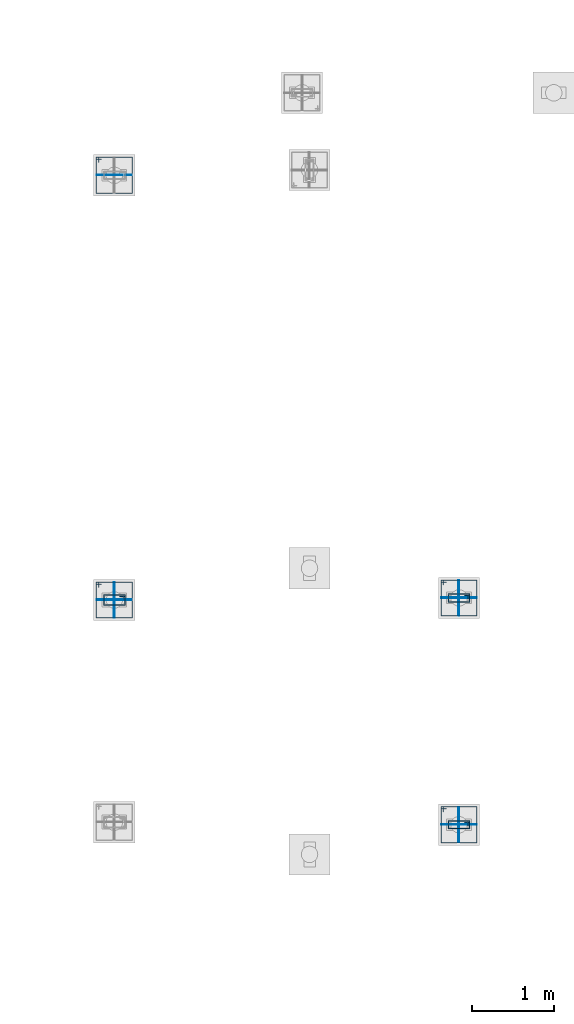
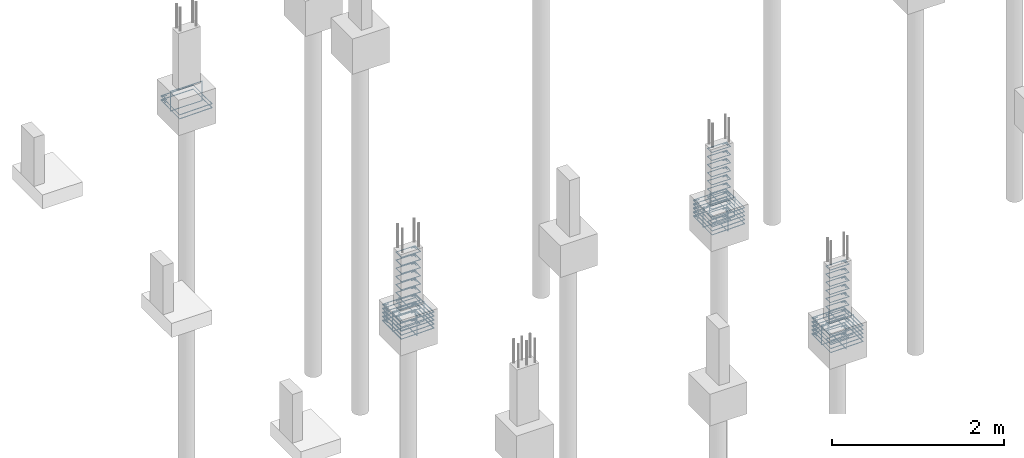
# One storey, part 102 of 119: 54 reinforcing bars.
"""IFC4 building model written with IfcOpenShell, lengths in centimetres."""

from ifc_helpers import new_model, entity, si_unit, derived_unit, frame, origin_with_axes, place, context, project, spatial, source, transform, mapped, element, save


model = new_model("IFC4")

# Units and contexts
model_context = context("Model", 3, precision=1e-05, world=origin_with_axes(), identifier="Body")
ifc_project = project(units=[si_unit("LENGTHUNIT", "METRE", prefix="CENTI"), si_unit("VOLUMEUNIT", "CUBIC_METRE"), si_unit("AREAUNIT", "SQUARE_METRE"), si_unit("POWERUNIT", "WATT"), si_unit("LUMINOUSFLUXUNIT", "LUMEN"), si_unit("ELECTRICCURRENTUNIT", "AMPERE"), si_unit("PRESSUREUNIT", "PASCAL", prefix="KILO"), si_unit("MASSUNIT", "GRAM", prefix="KILO"), si_unit("PLANEANGLEUNIT", "RADIAN"), derived_unit("VOLUMETRICFLOWRATEUNIT", [(si_unit("LENGTHUNIT", "METRE"), 3), (si_unit("TIMEUNIT", "SECOND"), -1)])], contexts=[model_context])

# Site, building, storey
site_placement = place(None, frame((-4000.0, 0.0, 0.0), z_axis=(0.0, 0.0, 1.0), x_axis=(1.0, 0.0, 0.0)))
site = spatial("IfcSite", under=ifc_project, at=site_placement, Name="PADRÃO")
building_placement = place(site_placement, frame((0.0, 0.0, -14.0)))
building = spatial("IfcBuilding", under=site, at=building_placement, Name="CRECHE PRÉ-ESCOLA TIPO 2")
storey_placement = place(building_placement, origin_with_axes())
storey = spatial("IfcBuildingStorey", under=building, at=storey_placement, Name="FUNDAÇÃO", CompositionType="ELEMENT", Elevation=-14.0)

# Reinforcing bars
shared_shape_1 = source(origin_with_axes(), model_context, "Body", "AdvancedSweptSolid", [
    entity("IfcSweptDiskSolid", entity("IfcCompositeCurve", [entity("IfcCompositeCurveSegment", "CONTINUOUS", True, entity("IfcPolyline", [entity("IfcCartesianPoint", [4.25, 21.75, 0.0]), entity("IfcCartesianPoint", [4.25, 27.75, 0.0])])), entity("IfcCompositeCurveSegment", "CONTINUOUS", True, entity("IfcPolyline", [entity("IfcCartesianPoint", [4.25, 27.75, 0.0]), entity("IfcCartesianPoint", [2.25, 27.75, 0.0])])), entity("IfcCompositeCurveSegment", "CONTINUOUS", True, entity("IfcPolyline", [entity("IfcCartesianPoint", [2.25, 27.75, 0.0]), entity("IfcCartesianPoint", [2.25, 2.25, 0.0])])), entity("IfcCompositeCurveSegment", "CONTINUOUS", True, entity("IfcPolyline", [entity("IfcCartesianPoint", [2.25, 2.25, 0.0]), entity("IfcCartesianPoint", [14.75, 2.25, 0.0])])), entity("IfcCompositeCurveSegment", "CONTINUOUS", True, entity("IfcPolyline", [entity("IfcCartesianPoint", [14.75, 2.25, 0.0]), entity("IfcCartesianPoint", [14.75, 27.75, -0.5])])), entity("IfcCompositeCurveSegment", "CONTINUOUS", True, entity("IfcPolyline", [entity("IfcCartesianPoint", [14.75, 27.75, -0.5]), entity("IfcCartesianPoint", [2.25, 27.75, -0.5])])), entity("IfcCompositeCurveSegment", "CONTINUOUS", True, entity("IfcPolyline", [entity("IfcCartesianPoint", [2.25, 27.75, -0.5]), entity("IfcCartesianPoint", [2.25, 25.75, -0.5])])), entity("IfcCompositeCurveSegment", "CONTINUOUS", True, entity("IfcPolyline", [entity("IfcCartesianPoint", [2.25, 25.75, -0.5]), entity("IfcCartesianPoint", [8.25, 25.75, -0.5])]))], False), 0.25),
])
for number, where, z_axis, x_axis, name in (
    (1, (252.01, 3478.5, -63.25), (0.0, 0.0, 1.0), (0.0, -1.0, 0.0), "P36 - Estribo"),
    (2, (252.01, 3478.5, -40.25), (0.0, 0.0, 1.0), (0.0, -1.0, 0.0), "P36 - Estribo"),
    (3, (252.01, 3478.5, -17.25), (0.0, 0.0, 1.0), (0.0, -1.0, 0.0), "P36 - Estribo"),
    (4, (252.01, 3478.5, -28.75), (0.0, 0.0, 1.0), (0.0, -1.0, 0.0), "P36 - Estribo"),
    (5, (252.01, 3478.5, -97.75), (0.0, 0.0, 1.0), (0.0, -1.0, 0.0), "P36 - Estribo"),
    (6, (252.01, 3478.5, -86.25), (0.0, 0.0, 1.0), (0.0, -1.0, 0.0), "P36 - Estribo"),
    (7, (252.01, 3478.5, -5.75), (0.0, 0.0, 1.0), (0.0, -1.0, 0.0), "P36 - Estribo"),
    (8, (252.01, 3478.5, -74.75), (0.0, 0.0, 1.0), (0.0, -1.0, 0.0), "P36 - Estribo"),
    (9, (252.01, 3478.5, -51.75), (0.0, 0.0, 1.0), (0.0, -1.0, 0.0), "P36 - Estribo"),
    (10, (252.01, 3478.5, -109.25), (0.0, 0.0, 1.0), (0.0, -1.0, 0.0), "P36 - Estribo"),
):
    element("IfcReinforcingBar", number, at=place(storey_placement, frame(where, z_axis=z_axis, x_axis=x_axis)), inside=storey, Name=name, BarLength=0.0, CrossSectionArea=1.9634954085e-05, NominalDiameter=0.5, PredefinedType="MAIN", context=model_context, shape_type="MappedRepresentation", body=[
        mapped(shared_shape_1, transform((0.0, 0.0, 0.0), scale=1.0)),
    ])
shared_shape_2 = source(origin_with_axes(), model_context, "Body", "AdvancedSweptSolid", [
    entity("IfcSweptDiskSolid", entity("IfcCompositeCurve", [entity("IfcCompositeCurveSegment", "CONTINUOUS", True, entity("IfcPolyline", [entity("IfcCartesianPoint", [247.845, 3485.425, 0.0]), entity("IfcCartesianPoint", [247.845, 3491.685, 0.0])])), entity("IfcCompositeCurveSegment", "CONTINUOUS", True, entity("IfcPolyline", [entity("IfcCartesianPoint", [247.845, 3491.685, 0.0]), entity("IfcCartesianPoint", [245.325, 3491.685, 0.0])])), entity("IfcCompositeCurveSegment", "CONTINUOUS", True, entity("IfcPolyline", [entity("IfcCartesianPoint", [245.325, 3491.685, 0.0]), entity("IfcCartesianPoint", [245.325, 3448.315, 0.0])])), entity("IfcCompositeCurveSegment", "CONTINUOUS", True, entity("IfcPolyline", [entity("IfcCartesianPoint", [245.325, 3448.315, 0.0]), entity("IfcCartesianPoint", [288.695, 3448.315, 0.63])])), entity("IfcCompositeCurveSegment", "CONTINUOUS", True, entity("IfcPolyline", [entity("IfcCartesianPoint", [288.695, 3448.315, 0.63]), entity("IfcCartesianPoint", [288.695, 3491.685, 0.63])])), entity("IfcCompositeCurveSegment", "CONTINUOUS", True, entity("IfcPolyline", [entity("IfcCartesianPoint", [288.695, 3491.685, 0.63]), entity("IfcCartesianPoint", [245.325, 3491.685, 0.63])])), entity("IfcCompositeCurveSegment", "CONTINUOUS", True, entity("IfcPolyline", [entity("IfcCartesianPoint", [245.325, 3491.685, 0.63]), entity("IfcCartesianPoint", [245.325, 3489.165, 0.63])])), entity("IfcCompositeCurveSegment", "CONTINUOUS", True, entity("IfcPolyline", [entity("IfcCartesianPoint", [245.325, 3489.165, 0.63]), entity("IfcCartesianPoint", [251.585, 3489.165, 0.63])]))], False), 0.315),
])
for number, where, z_axis, x_axis, name in (
    (11, (0.0, 0.0, -109.175), (0.0, 0.0, 1.0), (1.0, 0.0, 0.0), "P36 - Blocos (estribos)"),
    (12, (0.0, 0.0, -103.525), (0.0, 0.0, 1.0), (1.0, 0.0, 0.0), "P36 - Blocos (estribos)"),
    (13, (0.0, 0.0, -97.875), (0.0, 0.0, 1.0), (1.0, 0.0, 0.0), "P36 - Blocos (estribos)"),
    (14, (0.0, 0.0, -92.225), (0.0, 0.0, 1.0), (1.0, 0.0, 0.0), "P36 - Blocos (estribos)"),
    (15, (0.0, 0.0, -86.575), (0.0, 0.0, 1.0), (1.0, 0.0, 0.0), "P36 - Blocos (estribos)"),
):
    element("IfcReinforcingBar", number, at=place(storey_placement, frame(where, z_axis=z_axis, x_axis=x_axis)), inside=storey, Name=name, BarLength=0.0, CrossSectionArea=3.1172453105e-05, NominalDiameter=0.63, PredefinedType="MAIN", context=model_context, shape_type="MappedRepresentation", body=[
        mapped(shared_shape_2, transform((0.0, 0.0, 0.0), scale=1.0)),
    ])
shared_shape_3 = source(origin_with_axes(), model_context, "Body", "AdvancedSweptSolid", [
    entity("IfcSweptDiskSolid", entity("IfcCompositeCurve", [entity("IfcCompositeCurveSegment", "CONTINUOUS", True, entity("IfcPolyline", [entity("IfcCartesianPoint", [-15.12, -12.0, 0.0]), entity("IfcCartesianPoint", [-21.12, -12.0, 0.0])])), entity("IfcCompositeCurveSegment", "CONTINUOUS", True, entity("IfcPolyline", [entity("IfcCartesianPoint", [-21.12, -12.0, 0.0]), entity("IfcCartesianPoint", [-21.12, -14.0, 0.0])])), entity("IfcCompositeCurveSegment", "CONTINUOUS", True, entity("IfcPolyline", [entity("IfcCartesianPoint", [-21.12, -14.0, 0.0]), entity("IfcCartesianPoint", [21.12, -14.0, 0.0])])), entity("IfcCompositeCurveSegment", "CONTINUOUS", True, entity("IfcPolyline", [entity("IfcCartesianPoint", [21.12, -14.0, 0.0]), entity("IfcCartesianPoint", [21.12, 14.0, 0.5])])), entity("IfcCompositeCurveSegment", "CONTINUOUS", True, entity("IfcPolyline", [entity("IfcCartesianPoint", [21.12, 14.0, 0.5]), entity("IfcCartesianPoint", [-21.12, 14.0, 0.5])])), entity("IfcCompositeCurveSegment", "CONTINUOUS", True, entity("IfcPolyline", [entity("IfcCartesianPoint", [-21.12, 14.0, 0.5]), entity("IfcCartesianPoint", [-21.12, -14.0, 0.5])])), entity("IfcCompositeCurveSegment", "CONTINUOUS", True, entity("IfcPolyline", [entity("IfcCartesianPoint", [-21.12, -14.0, 0.5]), entity("IfcCartesianPoint", [-19.12, -14.0, 0.5])])), entity("IfcCompositeCurveSegment", "CONTINUOUS", True, entity("IfcPolyline", [entity("IfcCartesianPoint", [-19.12, -14.0, 0.5]), entity("IfcCartesianPoint", [-19.12, -8.0, 0.5])]))], False), 0.25),
])
reinforcing_bar_1_placement = place(storey_placement, frame((267.01, 3470.0, -97.75), z_axis=(0.0, 1.0, 0.0), x_axis=(1.0, 0.0, 0.0)))
element("IfcReinforcingBar", 16, at=reinforcing_bar_1_placement, inside=storey, Name="P36 - Blocos (estribos)", BarLength=0.0, CrossSectionArea=1.9634954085e-05, NominalDiameter=0.5, PredefinedType="MAIN", context=model_context, shape_type="MappedRepresentation", body=[
    mapped(shared_shape_3, transform((0.0, 0.0, 0.0), scale=1.0)),
])
shared_shape_4 = source(origin_with_axes(), model_context, "Body", "AdvancedSweptSolid", [
    entity("IfcSweptDiskSolid", entity("IfcCompositeCurve", [entity("IfcCompositeCurveSegment", "CONTINUOUS", True, entity("IfcPolyline", [entity("IfcCartesianPoint", [-15.12, -12.0, 0.0]), entity("IfcCartesianPoint", [-21.12, -12.0, 0.0])])), entity("IfcCompositeCurveSegment", "CONTINUOUS", True, entity("IfcPolyline", [entity("IfcCartesianPoint", [-21.12, -12.0, 0.0]), entity("IfcCartesianPoint", [-21.12, -14.0, 0.0])])), entity("IfcCompositeCurveSegment", "CONTINUOUS", True, entity("IfcPolyline", [entity("IfcCartesianPoint", [-21.12, -14.0, 0.0]), entity("IfcCartesianPoint", [21.12, -14.0, 0.0])])), entity("IfcCompositeCurveSegment", "CONTINUOUS", True, entity("IfcPolyline", [entity("IfcCartesianPoint", [21.12, -14.0, 0.0]), entity("IfcCartesianPoint", [21.12, 14.0, 0.5])])), entity("IfcCompositeCurveSegment", "CONTINUOUS", True, entity("IfcPolyline", [entity("IfcCartesianPoint", [21.12, 14.0, 0.5]), entity("IfcCartesianPoint", [-21.12, 14.0, 0.5])])), entity("IfcCompositeCurveSegment", "CONTINUOUS", True, entity("IfcPolyline", [entity("IfcCartesianPoint", [-21.12, 14.0, 0.5]), entity("IfcCartesianPoint", [-21.12, -14.0, 0.5])])), entity("IfcCompositeCurveSegment", "CONTINUOUS", True, entity("IfcPolyline", [entity("IfcCartesianPoint", [-21.12, -14.0, 0.5]), entity("IfcCartesianPoint", [-19.12, -14.0, 0.5])])), entity("IfcCompositeCurveSegment", "CONTINUOUS", True, entity("IfcPolyline", [entity("IfcCartesianPoint", [-19.12, -14.0, 0.5]), entity("IfcCartesianPoint", [-19.12, -8.0, 0.5])]))], False), 0.25),
])
reinforcing_bar_2_placement = place(storey_placement, frame((267.01, 3470.0, -97.75), z_axis=(-1.0, 0.0, 0.0), x_axis=(0.0, 1.0, 0.0)))
element("IfcReinforcingBar", 17, at=reinforcing_bar_2_placement, inside=storey, Name="P36 - Blocos (estribos)", BarLength=0.0, CrossSectionArea=1.9634954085e-05, NominalDiameter=0.5, PredefinedType="MAIN", context=model_context, shape_type="MappedRepresentation", body=[
    mapped(shared_shape_4, transform((0.0, 0.0, 0.0), scale=1.0)),
])
shared_shape_5 = source(origin_with_axes(), model_context, "Body", "AdvancedSweptSolid", [
    entity("IfcSweptDiskSolid", entity("IfcCompositeCurve", [entity("IfcCompositeCurveSegment", "CONTINUOUS", True, entity("IfcPolyline", [entity("IfcCartesianPoint", [247.835, 4000.425, 0.0]), entity("IfcCartesianPoint", [247.835, 4006.685, 0.0])])), entity("IfcCompositeCurveSegment", "CONTINUOUS", True, entity("IfcPolyline", [entity("IfcCartesianPoint", [247.835, 4006.685, 0.0]), entity("IfcCartesianPoint", [245.315, 4006.685, 0.0])])), entity("IfcCompositeCurveSegment", "CONTINUOUS", True, entity("IfcPolyline", [entity("IfcCartesianPoint", [245.315, 4006.685, 0.0]), entity("IfcCartesianPoint", [245.315, 3963.315, 0.0])])), entity("IfcCompositeCurveSegment", "CONTINUOUS", True, entity("IfcPolyline", [entity("IfcCartesianPoint", [245.315, 3963.315, 0.0]), entity("IfcCartesianPoint", [288.685, 3963.315, 0.63])])), entity("IfcCompositeCurveSegment", "CONTINUOUS", True, entity("IfcPolyline", [entity("IfcCartesianPoint", [288.685, 3963.315, 0.63]), entity("IfcCartesianPoint", [288.685, 4006.685, 0.63])])), entity("IfcCompositeCurveSegment", "CONTINUOUS", True, entity("IfcPolyline", [entity("IfcCartesianPoint", [288.685, 4006.685, 0.63]), entity("IfcCartesianPoint", [245.315, 4006.685, 0.63])])), entity("IfcCompositeCurveSegment", "CONTINUOUS", True, entity("IfcPolyline", [entity("IfcCartesianPoint", [245.315, 4006.685, 0.63]), entity("IfcCartesianPoint", [245.315, 4004.165, 0.63])])), entity("IfcCompositeCurveSegment", "CONTINUOUS", True, entity("IfcPolyline", [entity("IfcCartesianPoint", [245.315, 4004.165, 0.63]), entity("IfcCartesianPoint", [251.575, 4004.165, 0.63])]))], False), 0.315),
])
for number, where, z_axis, x_axis, name in (
    (18, (0.0, 0.0, -103.525), (0.0, 0.0, 1.0), (1.0, 0.0, 0.0), "P23 - Blocos (estribos)"),
    (19, (0.0, 0.0, -109.175), (0.0, 0.0, 1.0), (1.0, 0.0, 0.0), "P23 - Blocos (estribos)"),
):
    element("IfcReinforcingBar", number, at=place(storey_placement, frame(where, z_axis=z_axis, x_axis=x_axis)), inside=storey, Name=name, BarLength=0.0, CrossSectionArea=3.1172453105e-05, NominalDiameter=0.63, PredefinedType="MAIN", context=model_context, shape_type="MappedRepresentation", body=[
        mapped(shared_shape_5, transform((0.0, 0.0, 0.0), scale=1.0)),
    ])
shared_shape_6 = source(origin_with_axes(), model_context, "Body", "AdvancedSweptSolid", [
    entity("IfcSweptDiskSolid", entity("IfcCompositeCurve", [entity("IfcCompositeCurveSegment", "CONTINUOUS", True, entity("IfcPolyline", [entity("IfcCartesianPoint", [-15.12, -12.0, 0.0]), entity("IfcCartesianPoint", [-21.12, -12.0, 0.0])])), entity("IfcCompositeCurveSegment", "CONTINUOUS", True, entity("IfcPolyline", [entity("IfcCartesianPoint", [-21.12, -12.0, 0.0]), entity("IfcCartesianPoint", [-21.12, -14.0, 0.0])])), entity("IfcCompositeCurveSegment", "CONTINUOUS", True, entity("IfcPolyline", [entity("IfcCartesianPoint", [-21.12, -14.0, 0.0]), entity("IfcCartesianPoint", [21.12, -14.0, 0.0])])), entity("IfcCompositeCurveSegment", "CONTINUOUS", True, entity("IfcPolyline", [entity("IfcCartesianPoint", [21.12, -14.0, 0.0]), entity("IfcCartesianPoint", [21.12, 14.0, 0.5])])), entity("IfcCompositeCurveSegment", "CONTINUOUS", True, entity("IfcPolyline", [entity("IfcCartesianPoint", [21.12, 14.0, 0.5]), entity("IfcCartesianPoint", [-21.12, 14.0, 0.5])])), entity("IfcCompositeCurveSegment", "CONTINUOUS", True, entity("IfcPolyline", [entity("IfcCartesianPoint", [-21.12, 14.0, 0.5]), entity("IfcCartesianPoint", [-21.12, -14.0, 0.5])])), entity("IfcCompositeCurveSegment", "CONTINUOUS", True, entity("IfcPolyline", [entity("IfcCartesianPoint", [-21.12, -14.0, 0.5]), entity("IfcCartesianPoint", [-19.12, -14.0, 0.5])])), entity("IfcCompositeCurveSegment", "CONTINUOUS", True, entity("IfcPolyline", [entity("IfcCartesianPoint", [-19.12, -14.0, 0.5]), entity("IfcCartesianPoint", [-19.12, -8.0, 0.5])]))], False), 0.25),
])
reinforcing_bar_3_placement = place(storey_placement, frame((267.0, 3985.0, -97.75), z_axis=(0.0, 1.0, 0.0), x_axis=(1.0, 0.0, 0.0)))
element("IfcReinforcingBar", 20, at=reinforcing_bar_3_placement, inside=storey, Name="P23 - Blocos (estribos)", BarLength=0.0, CrossSectionArea=1.9634954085e-05, NominalDiameter=0.5, PredefinedType="MAIN", context=model_context, shape_type="MappedRepresentation", body=[
    mapped(shared_shape_6, transform((0.0, 0.0, 0.0), scale=1.0)),
])
shared_shape_7 = source(origin_with_axes(), model_context, "Body", "AdvancedSweptSolid", [
    entity("IfcSweptDiskSolid", entity("IfcCompositeCurve", [entity("IfcCompositeCurveSegment", "CONTINUOUS", True, entity("IfcPolyline", [entity("IfcCartesianPoint", [4.25, 21.75, 0.0]), entity("IfcCartesianPoint", [4.25, 27.75, 0.0])])), entity("IfcCompositeCurveSegment", "CONTINUOUS", True, entity("IfcPolyline", [entity("IfcCartesianPoint", [4.25, 27.75, 0.0]), entity("IfcCartesianPoint", [2.25, 27.75, 0.0])])), entity("IfcCompositeCurveSegment", "CONTINUOUS", True, entity("IfcPolyline", [entity("IfcCartesianPoint", [2.25, 27.75, 0.0]), entity("IfcCartesianPoint", [2.25, 2.25, 0.0])])), entity("IfcCompositeCurveSegment", "CONTINUOUS", True, entity("IfcPolyline", [entity("IfcCartesianPoint", [2.25, 2.25, 0.0]), entity("IfcCartesianPoint", [11.75, 2.25, 0.0])])), entity("IfcCompositeCurveSegment", "CONTINUOUS", True, entity("IfcPolyline", [entity("IfcCartesianPoint", [11.75, 2.25, 0.0]), entity("IfcCartesianPoint", [11.75, 27.75, -0.5])])), entity("IfcCompositeCurveSegment", "CONTINUOUS", True, entity("IfcPolyline", [entity("IfcCartesianPoint", [11.75, 27.75, -0.5]), entity("IfcCartesianPoint", [2.25, 27.75, -0.5])])), entity("IfcCompositeCurveSegment", "CONTINUOUS", True, entity("IfcPolyline", [entity("IfcCartesianPoint", [2.25, 27.75, -0.5]), entity("IfcCartesianPoint", [2.25, 25.75, -0.5])])), entity("IfcCompositeCurveSegment", "CONTINUOUS", True, entity("IfcPolyline", [entity("IfcCartesianPoint", [2.25, 25.75, -0.5]), entity("IfcCartesianPoint", [8.25, 25.75, -0.5])]))], False), 0.25),
])
for number, where, z_axis, x_axis, name in (
    (21, (670.0, 3204.49, -51.75), (0.0, 0.0, 1.0), (0.0, -1.0, 0.0), "P49 - Estribo"),
    (22, (670.0, 3204.49, -28.75), (0.0, 0.0, 1.0), (0.0, -1.0, 0.0), "P49 - Estribo"),
    (23, (670.0, 3204.49, -109.25), (0.0, 0.0, 1.0), (0.0, -1.0, 0.0), "P49 - Estribo"),
    (24, (670.0, 3204.49, -97.75), (0.0, 0.0, 1.0), (0.0, -1.0, 0.0), "P49 - Estribo"),
    (25, (670.0, 3204.49, -86.25), (0.0, 0.0, 1.0), (0.0, -1.0, 0.0), "P49 - Estribo"),
    (26, (670.0, 3204.49, -74.75), (0.0, 0.0, 1.0), (0.0, -1.0, 0.0), "P49 - Estribo"),
    (27, (670.0, 3204.49, -63.25), (0.0, 0.0, 1.0), (0.0, -1.0, 0.0), "P49 - Estribo"),
    (28, (670.0, 3204.49, -40.25), (0.0, 0.0, 1.0), (0.0, -1.0, 0.0), "P49 - Estribo"),
    (29, (670.0, 3204.49, -5.75), (0.0, 0.0, 1.0), (0.0, -1.0, 0.0), "P49 - Estribo"),
    (30, (670.0, 3204.49, -17.25), (0.0, 0.0, 1.0), (0.0, -1.0, 0.0), "P49 - Estribo"),
):
    element("IfcReinforcingBar", number, at=place(storey_placement, frame(where, z_axis=z_axis, x_axis=x_axis)), inside=storey, Name=name, BarLength=0.0, CrossSectionArea=1.9634954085e-05, NominalDiameter=0.5, PredefinedType="MAIN", context=model_context, shape_type="MappedRepresentation", body=[
        mapped(shared_shape_7, transform((0.0, 0.0, 0.0), scale=1.0)),
    ])
shared_shape_8 = source(origin_with_axes(), model_context, "Body", "AdvancedSweptSolid", [
    entity("IfcSweptDiskSolid", entity("IfcCompositeCurve", [entity("IfcCompositeCurveSegment", "CONTINUOUS", True, entity("IfcPolyline", [entity("IfcCartesianPoint", [665.835, 3212.915, 0.0]), entity("IfcCartesianPoint", [665.835, 3219.175, 0.0])])), entity("IfcCompositeCurveSegment", "CONTINUOUS", True, entity("IfcPolyline", [entity("IfcCartesianPoint", [665.835, 3219.175, 0.0]), entity("IfcCartesianPoint", [663.315, 3219.175, 0.0])])), entity("IfcCompositeCurveSegment", "CONTINUOUS", True, entity("IfcPolyline", [entity("IfcCartesianPoint", [663.315, 3219.175, 0.0]), entity("IfcCartesianPoint", [663.315, 3175.805, 0.0])])), entity("IfcCompositeCurveSegment", "CONTINUOUS", True, entity("IfcPolyline", [entity("IfcCartesianPoint", [663.315, 3175.805, 0.0]), entity("IfcCartesianPoint", [706.685, 3175.805, 0.63])])), entity("IfcCompositeCurveSegment", "CONTINUOUS", True, entity("IfcPolyline", [entity("IfcCartesianPoint", [706.685, 3175.805, 0.63]), entity("IfcCartesianPoint", [706.685, 3219.175, 0.63])])), entity("IfcCompositeCurveSegment", "CONTINUOUS", True, entity("IfcPolyline", [entity("IfcCartesianPoint", [706.685, 3219.175, 0.63]), entity("IfcCartesianPoint", [663.315, 3219.175, 0.63])])), entity("IfcCompositeCurveSegment", "CONTINUOUS", True, entity("IfcPolyline", [entity("IfcCartesianPoint", [663.315, 3219.175, 0.63]), entity("IfcCartesianPoint", [663.315, 3216.655, 0.63])])), entity("IfcCompositeCurveSegment", "CONTINUOUS", True, entity("IfcPolyline", [entity("IfcCartesianPoint", [663.315, 3216.655, 0.63]), entity("IfcCartesianPoint", [669.575, 3216.655, 0.63])]))], False), 0.315),
])
for number, where, z_axis, x_axis, name in (
    (31, (0.0, 0.0, -97.875), (0.0, 0.0, 1.0), (1.0, 0.0, 0.0), "P49 - Blocos (estribos)"),
    (32, (0.0, 0.0, -92.225), (0.0, 0.0, 1.0), (1.0, 0.0, 0.0), "P49 - Blocos (estribos)"),
    (33, (0.0, 0.0, -86.575), (0.0, 0.0, 1.0), (1.0, 0.0, 0.0), "P49 - Blocos (estribos)"),
    (34, (0.0, 0.0, -109.175), (0.0, 0.0, 1.0), (1.0, 0.0, 0.0), "P49 - Blocos (estribos)"),
    (35, (0.0, 0.0, -103.525), (0.0, 0.0, 1.0), (1.0, 0.0, 0.0), "P49 - Blocos (estribos)"),
):
    element("IfcReinforcingBar", number, at=place(storey_placement, frame(where, z_axis=z_axis, x_axis=x_axis)), inside=storey, Name=name, BarLength=0.0, CrossSectionArea=3.1172453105e-05, NominalDiameter=0.63, PredefinedType="MAIN", context=model_context, shape_type="MappedRepresentation", body=[
        mapped(shared_shape_8, transform((0.0, 0.0, 0.0), scale=1.0)),
    ])
shared_shape_9 = source(origin_with_axes(), model_context, "Body", "AdvancedSweptSolid", [
    entity("IfcSweptDiskSolid", entity("IfcCompositeCurve", [entity("IfcCompositeCurveSegment", "CONTINUOUS", True, entity("IfcPolyline", [entity("IfcCartesianPoint", [-15.12, -12.0, 0.0]), entity("IfcCartesianPoint", [-21.12, -12.0, 0.0])])), entity("IfcCompositeCurveSegment", "CONTINUOUS", True, entity("IfcPolyline", [entity("IfcCartesianPoint", [-21.12, -12.0, 0.0]), entity("IfcCartesianPoint", [-21.12, -14.0, 0.0])])), entity("IfcCompositeCurveSegment", "CONTINUOUS", True, entity("IfcPolyline", [entity("IfcCartesianPoint", [-21.12, -14.0, 0.0]), entity("IfcCartesianPoint", [21.12, -14.0, 0.0])])), entity("IfcCompositeCurveSegment", "CONTINUOUS", True, entity("IfcPolyline", [entity("IfcCartesianPoint", [21.12, -14.0, 0.0]), entity("IfcCartesianPoint", [21.12, 14.0, 0.5])])), entity("IfcCompositeCurveSegment", "CONTINUOUS", True, entity("IfcPolyline", [entity("IfcCartesianPoint", [21.12, 14.0, 0.5]), entity("IfcCartesianPoint", [-21.12, 14.0, 0.5])])), entity("IfcCompositeCurveSegment", "CONTINUOUS", True, entity("IfcPolyline", [entity("IfcCartesianPoint", [-21.12, 14.0, 0.5]), entity("IfcCartesianPoint", [-21.12, -14.0, 0.5])])), entity("IfcCompositeCurveSegment", "CONTINUOUS", True, entity("IfcPolyline", [entity("IfcCartesianPoint", [-21.12, -14.0, 0.5]), entity("IfcCartesianPoint", [-19.12, -14.0, 0.5])])), entity("IfcCompositeCurveSegment", "CONTINUOUS", True, entity("IfcPolyline", [entity("IfcCartesianPoint", [-19.12, -14.0, 0.5]), entity("IfcCartesianPoint", [-19.12, -8.0, 0.5])]))], False), 0.25),
])
reinforcing_bar_4_placement = place(storey_placement, frame((685.0, 3197.49, -97.75), z_axis=(0.0, 1.0, 0.0), x_axis=(1.0, 0.0, 0.0)))
element("IfcReinforcingBar", 36, at=reinforcing_bar_4_placement, inside=storey, Name="P49 - Blocos (estribos)", BarLength=0.0, CrossSectionArea=1.9634954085e-05, NominalDiameter=0.5, PredefinedType="MAIN", context=model_context, shape_type="MappedRepresentation", body=[
    mapped(shared_shape_9, transform((0.0, 0.0, 0.0), scale=1.0)),
])
shared_shape_10 = source(origin_with_axes(), model_context, "Body", "AdvancedSweptSolid", [
    entity("IfcSweptDiskSolid", entity("IfcCompositeCurve", [entity("IfcCompositeCurveSegment", "CONTINUOUS", True, entity("IfcPolyline", [entity("IfcCartesianPoint", [-15.12, -12.0, 0.0]), entity("IfcCartesianPoint", [-21.12, -12.0, 0.0])])), entity("IfcCompositeCurveSegment", "CONTINUOUS", True, entity("IfcPolyline", [entity("IfcCartesianPoint", [-21.12, -12.0, 0.0]), entity("IfcCartesianPoint", [-21.12, -14.0, 0.0])])), entity("IfcCompositeCurveSegment", "CONTINUOUS", True, entity("IfcPolyline", [entity("IfcCartesianPoint", [-21.12, -14.0, 0.0]), entity("IfcCartesianPoint", [21.12, -14.0, 0.0])])), entity("IfcCompositeCurveSegment", "CONTINUOUS", True, entity("IfcPolyline", [entity("IfcCartesianPoint", [21.12, -14.0, 0.0]), entity("IfcCartesianPoint", [21.12, 14.0, 0.5])])), entity("IfcCompositeCurveSegment", "CONTINUOUS", True, entity("IfcPolyline", [entity("IfcCartesianPoint", [21.12, 14.0, 0.5]), entity("IfcCartesianPoint", [-21.12, 14.0, 0.5])])), entity("IfcCompositeCurveSegment", "CONTINUOUS", True, entity("IfcPolyline", [entity("IfcCartesianPoint", [-21.12, 14.0, 0.5]), entity("IfcCartesianPoint", [-21.12, -14.0, 0.5])])), entity("IfcCompositeCurveSegment", "CONTINUOUS", True, entity("IfcPolyline", [entity("IfcCartesianPoint", [-21.12, -14.0, 0.5]), entity("IfcCartesianPoint", [-19.12, -14.0, 0.5])])), entity("IfcCompositeCurveSegment", "CONTINUOUS", True, entity("IfcPolyline", [entity("IfcCartesianPoint", [-19.12, -14.0, 0.5]), entity("IfcCartesianPoint", [-19.12, -8.0, 0.5])]))], False), 0.25),
])
reinforcing_bar_5_placement = place(storey_placement, frame((685.0, 3197.49, -97.75), z_axis=(-1.0, 0.0, 0.0), x_axis=(0.0, 1.0, 0.0)))
element("IfcReinforcingBar", 37, at=reinforcing_bar_5_placement, inside=storey, Name="P49 - Blocos (estribos)", BarLength=0.0, CrossSectionArea=1.9634954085e-05, NominalDiameter=0.5, PredefinedType="MAIN", context=model_context, shape_type="MappedRepresentation", body=[
    mapped(shared_shape_10, transform((0.0, 0.0, 0.0), scale=1.0)),
])
shared_shape_11 = source(origin_with_axes(), model_context, "Body", "AdvancedSweptSolid", [
    entity("IfcSweptDiskSolid", entity("IfcCompositeCurve", [entity("IfcCompositeCurveSegment", "CONTINUOUS", True, entity("IfcPolyline", [entity("IfcCartesianPoint", [4.25, 21.75, 0.0]), entity("IfcCartesianPoint", [4.25, 27.75, 0.0])])), entity("IfcCompositeCurveSegment", "CONTINUOUS", True, entity("IfcPolyline", [entity("IfcCartesianPoint", [4.25, 27.75, 0.0]), entity("IfcCartesianPoint", [2.25, 27.75, 0.0])])), entity("IfcCompositeCurveSegment", "CONTINUOUS", True, entity("IfcPolyline", [entity("IfcCartesianPoint", [2.25, 27.75, 0.0]), entity("IfcCartesianPoint", [2.25, 2.25, 0.0])])), entity("IfcCompositeCurveSegment", "CONTINUOUS", True, entity("IfcPolyline", [entity("IfcCartesianPoint", [2.25, 2.25, 0.0]), entity("IfcCartesianPoint", [11.75, 2.25, 0.0])])), entity("IfcCompositeCurveSegment", "CONTINUOUS", True, entity("IfcPolyline", [entity("IfcCartesianPoint", [11.75, 2.25, 0.0]), entity("IfcCartesianPoint", [11.75, 27.75, -0.5])])), entity("IfcCompositeCurveSegment", "CONTINUOUS", True, entity("IfcPolyline", [entity("IfcCartesianPoint", [11.75, 27.75, -0.5]), entity("IfcCartesianPoint", [2.25, 27.75, -0.5])])), entity("IfcCompositeCurveSegment", "CONTINUOUS", True, entity("IfcPolyline", [entity("IfcCartesianPoint", [2.25, 27.75, -0.5]), entity("IfcCartesianPoint", [2.25, 25.75, -0.5])])), entity("IfcCompositeCurveSegment", "CONTINUOUS", True, entity("IfcPolyline", [entity("IfcCartesianPoint", [2.25, 25.75, -0.5]), entity("IfcCartesianPoint", [8.25, 25.75, -0.5])]))], False), 0.25),
])
for number, where, z_axis, x_axis, name in (
    (38, (670.0, 3479.49, -17.25), (0.0, 0.0, 1.0), (0.0, -1.0, 0.0), "P39 - Estribo"),
    (39, (670.0, 3479.49, -28.75), (0.0, 0.0, 1.0), (0.0, -1.0, 0.0), "P39 - Estribo"),
    (40, (670.0, 3479.49, -86.25), (0.0, 0.0, 1.0), (0.0, -1.0, 0.0), "P39 - Estribo"),
    (41, (670.0, 3479.49, -40.25), (0.0, 0.0, 1.0), (0.0, -1.0, 0.0), "P39 - Estribo"),
    (42, (670.0, 3479.49, -51.75), (0.0, 0.0, 1.0), (0.0, -1.0, 0.0), "P39 - Estribo"),
    (43, (670.0, 3479.49, -63.25), (0.0, 0.0, 1.0), (0.0, -1.0, 0.0), "P39 - Estribo"),
    (44, (670.0, 3479.49, -74.75), (0.0, 0.0, 1.0), (0.0, -1.0, 0.0), "P39 - Estribo"),
    (45, (670.0, 3479.49, -5.75), (0.0, 0.0, 1.0), (0.0, -1.0, 0.0), "P39 - Estribo"),
    (46, (670.0, 3479.49, -109.25), (0.0, 0.0, 1.0), (0.0, -1.0, 0.0), "P39 - Estribo"),
    (47, (670.0, 3479.49, -97.75), (0.0, 0.0, 1.0), (0.0, -1.0, 0.0), "P39 - Estribo"),
):
    element("IfcReinforcingBar", number, at=place(storey_placement, frame(where, z_axis=z_axis, x_axis=x_axis)), inside=storey, Name=name, BarLength=0.0, CrossSectionArea=1.9634954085e-05, NominalDiameter=0.5, PredefinedType="MAIN", context=model_context, shape_type="MappedRepresentation", body=[
        mapped(shared_shape_11, transform((0.0, 0.0, 0.0), scale=1.0)),
    ])
shared_shape_12 = source(origin_with_axes(), model_context, "Body", "AdvancedSweptSolid", [
    entity("IfcSweptDiskSolid", entity("IfcCompositeCurve", [entity("IfcCompositeCurveSegment", "CONTINUOUS", True, entity("IfcPolyline", [entity("IfcCartesianPoint", [665.835, 3487.915, 0.0]), entity("IfcCartesianPoint", [665.835, 3494.175, 0.0])])), entity("IfcCompositeCurveSegment", "CONTINUOUS", True, entity("IfcPolyline", [entity("IfcCartesianPoint", [665.835, 3494.175, 0.0]), entity("IfcCartesianPoint", [663.315, 3494.175, 0.0])])), entity("IfcCompositeCurveSegment", "CONTINUOUS", True, entity("IfcPolyline", [entity("IfcCartesianPoint", [663.315, 3494.175, 0.0]), entity("IfcCartesianPoint", [663.315, 3450.805, 0.0])])), entity("IfcCompositeCurveSegment", "CONTINUOUS", True, entity("IfcPolyline", [entity("IfcCartesianPoint", [663.315, 3450.805, 0.0]), entity("IfcCartesianPoint", [706.685, 3450.805, 0.63])])), entity("IfcCompositeCurveSegment", "CONTINUOUS", True, entity("IfcPolyline", [entity("IfcCartesianPoint", [706.685, 3450.805, 0.63]), entity("IfcCartesianPoint", [706.685, 3494.175, 0.63])])), entity("IfcCompositeCurveSegment", "CONTINUOUS", True, entity("IfcPolyline", [entity("IfcCartesianPoint", [706.685, 3494.175, 0.63]), entity("IfcCartesianPoint", [663.315, 3494.175, 0.63])])), entity("IfcCompositeCurveSegment", "CONTINUOUS", True, entity("IfcPolyline", [entity("IfcCartesianPoint", [663.315, 3494.175, 0.63]), entity("IfcCartesianPoint", [663.315, 3491.655, 0.63])])), entity("IfcCompositeCurveSegment", "CONTINUOUS", True, entity("IfcPolyline", [entity("IfcCartesianPoint", [663.315, 3491.655, 0.63]), entity("IfcCartesianPoint", [669.575, 3491.655, 0.63])]))], False), 0.315),
])
for number, where, z_axis, x_axis, name in (
    (48, (0.0, 0.0, -103.525), (0.0, 0.0, 1.0), (1.0, 0.0, 0.0), "P39 - Blocos (estribos)"),
    (49, (0.0, 0.0, -109.175), (0.0, 0.0, 1.0), (1.0, 0.0, 0.0), "P39 - Blocos (estribos)"),
    (50, (0.0, 0.0, -97.875), (0.0, 0.0, 1.0), (1.0, 0.0, 0.0), "P39 - Blocos (estribos)"),
    (51, (0.0, 0.0, -92.225), (0.0, 0.0, 1.0), (1.0, 0.0, 0.0), "P39 - Blocos (estribos)"),
    (52, (0.0, 0.0, -86.575), (0.0, 0.0, 1.0), (1.0, 0.0, 0.0), "P39 - Blocos (estribos)"),
):
    element("IfcReinforcingBar", number, at=place(storey_placement, frame(where, z_axis=z_axis, x_axis=x_axis)), inside=storey, Name=name, BarLength=0.0, CrossSectionArea=3.1172453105e-05, NominalDiameter=0.63, PredefinedType="MAIN", context=model_context, shape_type="MappedRepresentation", body=[
        mapped(shared_shape_12, transform((0.0, 0.0, 0.0), scale=1.0)),
    ])
shared_shape_13 = source(origin_with_axes(), model_context, "Body", "AdvancedSweptSolid", [
    entity("IfcSweptDiskSolid", entity("IfcCompositeCurve", [entity("IfcCompositeCurveSegment", "CONTINUOUS", True, entity("IfcPolyline", [entity("IfcCartesianPoint", [-15.12, -12.0, 0.0]), entity("IfcCartesianPoint", [-21.12, -12.0, 0.0])])), entity("IfcCompositeCurveSegment", "CONTINUOUS", True, entity("IfcPolyline", [entity("IfcCartesianPoint", [-21.12, -12.0, 0.0]), entity("IfcCartesianPoint", [-21.12, -14.0, 0.0])])), entity("IfcCompositeCurveSegment", "CONTINUOUS", True, entity("IfcPolyline", [entity("IfcCartesianPoint", [-21.12, -14.0, 0.0]), entity("IfcCartesianPoint", [21.12, -14.0, 0.0])])), entity("IfcCompositeCurveSegment", "CONTINUOUS", True, entity("IfcPolyline", [entity("IfcCartesianPoint", [21.12, -14.0, 0.0]), entity("IfcCartesianPoint", [21.12, 14.0, 0.5])])), entity("IfcCompositeCurveSegment", "CONTINUOUS", True, entity("IfcPolyline", [entity("IfcCartesianPoint", [21.12, 14.0, 0.5]), entity("IfcCartesianPoint", [-21.12, 14.0, 0.5])])), entity("IfcCompositeCurveSegment", "CONTINUOUS", True, entity("IfcPolyline", [entity("IfcCartesianPoint", [-21.12, 14.0, 0.5]), entity("IfcCartesianPoint", [-21.12, -14.0, 0.5])])), entity("IfcCompositeCurveSegment", "CONTINUOUS", True, entity("IfcPolyline", [entity("IfcCartesianPoint", [-21.12, -14.0, 0.5]), entity("IfcCartesianPoint", [-19.12, -14.0, 0.5])])), entity("IfcCompositeCurveSegment", "CONTINUOUS", True, entity("IfcPolyline", [entity("IfcCartesianPoint", [-19.12, -14.0, 0.5]), entity("IfcCartesianPoint", [-19.12, -8.0, 0.5])]))], False), 0.25),
])
reinforcing_bar_6_placement = place(storey_placement, frame((685.0, 3472.49, -97.75), z_axis=(0.0, 1.0, 0.0), x_axis=(1.0, 0.0, 0.0)))
element("IfcReinforcingBar", 53, at=reinforcing_bar_6_placement, inside=storey, Name="P39 - Blocos (estribos)", BarLength=0.0, CrossSectionArea=1.9634954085e-05, NominalDiameter=0.5, PredefinedType="MAIN", context=model_context, shape_type="MappedRepresentation", body=[
    mapped(shared_shape_13, transform((0.0, 0.0, 0.0), scale=1.0)),
])
shared_shape_14 = source(origin_with_axes(), model_context, "Body", "AdvancedSweptSolid", [
    entity("IfcSweptDiskSolid", entity("IfcCompositeCurve", [entity("IfcCompositeCurveSegment", "CONTINUOUS", True, entity("IfcPolyline", [entity("IfcCartesianPoint", [-15.12, -12.0, 0.0]), entity("IfcCartesianPoint", [-21.12, -12.0, 0.0])])), entity("IfcCompositeCurveSegment", "CONTINUOUS", True, entity("IfcPolyline", [entity("IfcCartesianPoint", [-21.12, -12.0, 0.0]), entity("IfcCartesianPoint", [-21.12, -14.0, 0.0])])), entity("IfcCompositeCurveSegment", "CONTINUOUS", True, entity("IfcPolyline", [entity("IfcCartesianPoint", [-21.12, -14.0, 0.0]), entity("IfcCartesianPoint", [21.12, -14.0, 0.0])])), entity("IfcCompositeCurveSegment", "CONTINUOUS", True, entity("IfcPolyline", [entity("IfcCartesianPoint", [21.12, -14.0, 0.0]), entity("IfcCartesianPoint", [21.12, 14.0, 0.5])])), entity("IfcCompositeCurveSegment", "CONTINUOUS", True, entity("IfcPolyline", [entity("IfcCartesianPoint", [21.12, 14.0, 0.5]), entity("IfcCartesianPoint", [-21.12, 14.0, 0.5])])), entity("IfcCompositeCurveSegment", "CONTINUOUS", True, entity("IfcPolyline", [entity("IfcCartesianPoint", [-21.12, 14.0, 0.5]), entity("IfcCartesianPoint", [-21.12, -14.0, 0.5])])), entity("IfcCompositeCurveSegment", "CONTINUOUS", True, entity("IfcPolyline", [entity("IfcCartesianPoint", [-21.12, -14.0, 0.5]), entity("IfcCartesianPoint", [-19.12, -14.0, 0.5])])), entity("IfcCompositeCurveSegment", "CONTINUOUS", True, entity("IfcPolyline", [entity("IfcCartesianPoint", [-19.12, -14.0, 0.5]), entity("IfcCartesianPoint", [-19.12, -8.0, 0.5])]))], False), 0.25),
])
reinforcing_bar_7_placement = place(storey_placement, frame((685.0, 3472.49, -97.75), z_axis=(-1.0, 0.0, 0.0), x_axis=(0.0, 1.0, 0.0)))
element("IfcReinforcingBar", 54, at=reinforcing_bar_7_placement, inside=storey, Name="P39 - Blocos (estribos)", BarLength=0.0, CrossSectionArea=1.9634954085e-05, NominalDiameter=0.5, PredefinedType="MAIN", context=model_context, shape_type="MappedRepresentation", body=[
    mapped(shared_shape_14, transform((0.0, 0.0, 0.0), scale=1.0)),
])

save(model, "model.ifc")
